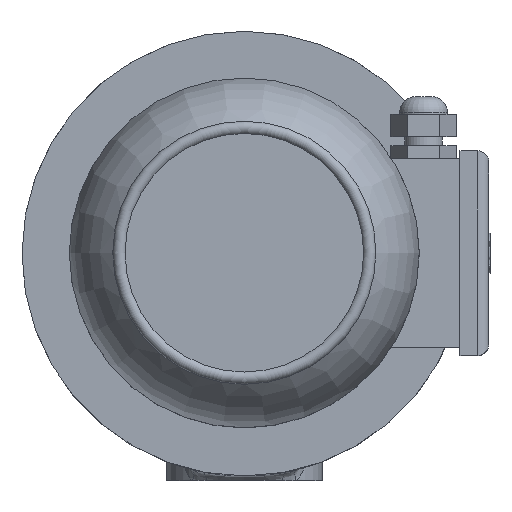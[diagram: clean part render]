
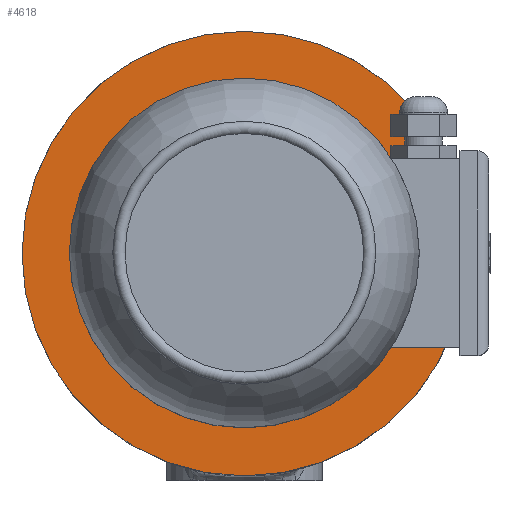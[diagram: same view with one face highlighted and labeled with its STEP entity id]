
A CAD part, top view. The second image highlights one B-rep face of the part: STEP entity #4618.
In plain terms, the highlighted planar face has unit normal (0, 0, 1).
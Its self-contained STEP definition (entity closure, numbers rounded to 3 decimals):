
#153=PLANE('',#5063);
#1482=ORIENTED_EDGE('',*,*,#2757,.F.);
#1483=ORIENTED_EDGE('',*,*,#2758,.T.);
#2757=EDGE_CURVE('',#3398,#3398,#3681,.T.);
#2758=EDGE_CURVE('',#3399,#3399,#3682,.T.);
#3398=VERTEX_POINT('',#8165);
#3399=VERTEX_POINT('',#8168);
#3681=CIRCLE('',#5062,100.);
#3682=CIRCLE('',#5064,65.993);
#3865=EDGE_LOOP('',(#1482));
#3866=EDGE_LOOP('',(#1483));
#4241=FACE_BOUND('',#3865,.T.);
#4242=FACE_BOUND('',#3866,.T.);
#4618=ADVANCED_FACE('',(#4241,#4242),#153,.T.);
#5062=AXIS2_PLACEMENT_3D('',#8164,#5768,#5769);
#5063=AXIS2_PLACEMENT_3D('',#8166,#5770,#5771);
#5064=AXIS2_PLACEMENT_3D('',#8167,#5772,#5773);
#5768=DIRECTION('',(0.,0.,-1.));
#5769=DIRECTION('',(-1.,0.,0.));
#5770=DIRECTION('',(0.,0.,1.));
#5771=DIRECTION('',(1.,0.,0.));
#5772=DIRECTION('',(0.,0.,-1.));
#5773=DIRECTION('',(-1.,0.,0.));
#8164=CARTESIAN_POINT('',(0.,0.,360.364));
#8165=CARTESIAN_POINT('',(-100.,0.,360.364));
#8166=CARTESIAN_POINT('',(-65.993,0.,360.364));
#8167=CARTESIAN_POINT('',(0.,0.,360.364));
#8168=CARTESIAN_POINT('',(-65.993,0.,360.364));
